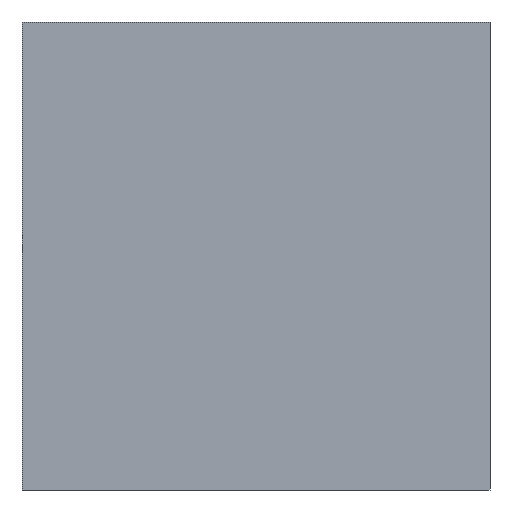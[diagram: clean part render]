
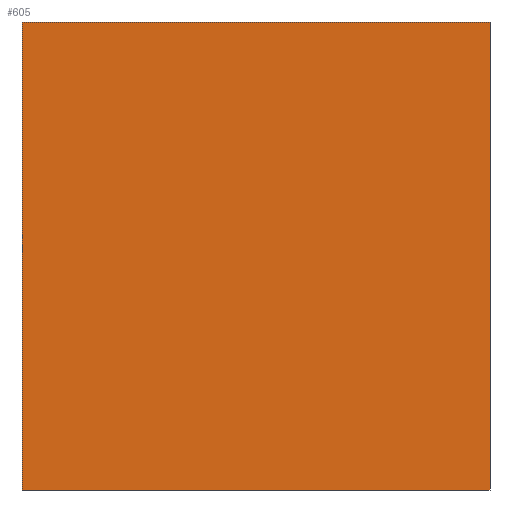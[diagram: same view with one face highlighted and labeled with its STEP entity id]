
A CAD part, front view. The second image highlights one B-rep face of the part: STEP entity #605.
In plain terms, the highlighted planar face has unit normal (0, -1, 0).
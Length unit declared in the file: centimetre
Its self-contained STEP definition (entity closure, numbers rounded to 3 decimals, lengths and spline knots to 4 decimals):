
#11 = PLANE ( 'NONE',  #161 ) ;
#57 = DIRECTION ( 'NONE',  ( 0., 0., -1. ) ) ;
#92 = ORIENTED_EDGE ( 'NONE', *, *, #562, .T. ) ;
#96 = EDGE_LOOP ( 'NONE', ( #92, #266, #175, #416 ) ) ;
#152 = VECTOR ( 'NONE', #483, 100. ) ;
#161 = AXIS2_PLACEMENT_3D ( 'NONE', #350, #200, #534 ) ;
#175 = ORIENTED_EDGE ( 'NONE', *, *, #302, .F. ) ;
#200 = DIRECTION ( 'NONE',  ( 0., 1., 0. ) ) ;
#208 = VERTEX_POINT ( 'NONE', #421 ) ;
#243 = LINE ( 'NONE', #298, #152 ) ;
#266 = ORIENTED_EDGE ( 'NONE', *, *, #388, .F. ) ;
#289 = CARTESIAN_POINT ( 'NONE',  ( 0., 0., 1000. ) ) ;
#293 = LINE ( 'NONE', #436, #379 ) ;
#295 = VECTOR ( 'NONE', #352, 100. ) ;
#298 = CARTESIAN_POINT ( 'NONE',  ( 0., 0., 1000. ) ) ;
#302 = EDGE_CURVE ( 'NONE', #208, #508, #387, .T. ) ;
#306 = EDGE_CURVE ( 'NONE', #208, #577, #243, .T. ) ;
#312 = VERTEX_POINT ( 'NONE', #382 ) ;
#350 = CARTESIAN_POINT ( 'NONE',  ( 0., 0., 1000. ) ) ;
#352 = DIRECTION ( 'NONE',  ( 1., 0., 0. ) ) ;
#379 = VECTOR ( 'NONE', #57, 100. ) ;
#382 = CARTESIAN_POINT ( 'NONE',  ( 1000., 0., 0. ) ) ;
#387 = LINE ( 'NONE', #289, #566 ) ;
#388 = EDGE_CURVE ( 'NONE', #508, #312, #293, .T. ) ;
#416 = ORIENTED_EDGE ( 'NONE', *, *, #306, .T. ) ;
#421 = CARTESIAN_POINT ( 'NONE',  ( 0., 0., 1000. ) ) ;
#436 = CARTESIAN_POINT ( 'NONE',  ( 1000., 0., 1000. ) ) ;
#483 = DIRECTION ( 'NONE',  ( 0., 0., -1. ) ) ;
#490 = CARTESIAN_POINT ( 'NONE',  ( 0., 0., 0. ) ) ;
#508 = VERTEX_POINT ( 'NONE', #538 ) ;
#534 = DIRECTION ( 'NONE',  ( 0., 0., 1. ) ) ;
#538 = CARTESIAN_POINT ( 'NONE',  ( 1000., 0., 1000. ) ) ;
#545 = LINE ( 'NONE', #581, #295 ) ;
#562 = EDGE_CURVE ( 'NONE', #577, #312, #545, .T. ) ;
#566 = VECTOR ( 'NONE', #612, 100. ) ;
#577 = VERTEX_POINT ( 'NONE', #490 ) ;
#581 = CARTESIAN_POINT ( 'NONE',  ( 0., 0., 0. ) ) ;
#582 = FACE_OUTER_BOUND ( 'NONE', #96, .T. ) ;
#605 = ADVANCED_FACE ( 'NONE', ( #582 ), #11, .F. ) ;
#612 = DIRECTION ( 'NONE',  ( 1., 0., 0. ) ) ;
